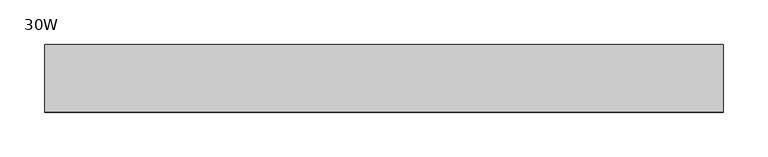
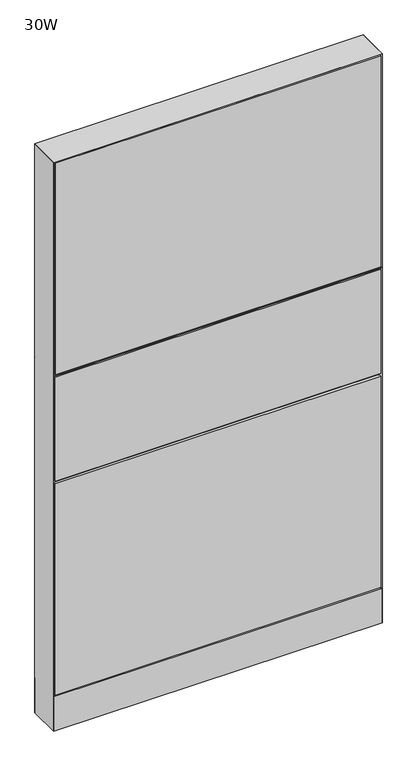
"""IFC4 building model written with IfcOpenShell, lengths in millimetres: furniture geometry, Steelcase - Montage - Frame - 55H - Enhanced Standard - Base Cavity : 30W."""

from ifc_helpers import new_model, si_unit, point, frame, frame_2d, origin, origin_with_axes, place, context, project, spatial, polyline, circle_curve, trimmed, segment, composite_curve, outline, extrude, faceted_brep, source, transform, mapped, element, save


def furniture_30w_ddc59d52(model_context):
    return source(origin(), model_context, "Body", "SolidModel", [
        extrude(outline(polyline([(3.175, 31.7500194), (3.175, 38.1000194), (758.825, 38.1000194), (758.825, 31.7500194), (3.175, 31.7500194)])), frame((0.0, 0.0, 877.8875), z_axis=(0.0, 0.0, 1.0), x_axis=(1.0, 0.0, 0.0)), (0.0, 0.0, 1.0), 517.525),
        faceted_brep([(755.6500047, 31.7526299, 881.0624997), (755.6500047, 31.7526299, 868.3625003), (762.0, 38.1026253, 874.7124956), (-5.4e-06, 38.102627, 874.7125027), (6.3499917, 31.7526299, 881.0624997), (6.3499917, 31.7526299, 868.3625003)], [[[0, 1, 2]], [[3, 4, 0, 2]], [[2, 1, 5, 3]], [[4, 5, 1, 0]], [[3, 5, 4]]]),
        extrude(outline(polyline([(3.175, 31.7500194), (3.175, 38.1000194), (758.825, 38.1000194), (758.825, 31.7500194), (3.175, 31.7500194)])), frame((0.0, 0.0, 615.95), z_axis=(0.0, 0.0, 1.0), x_axis=(1.0, 0.0, 0.0)), (0.0, 0.0, 1.0), 255.5875),
        extrude(outline(polyline([(3.175, 31.7500194), (3.175, 38.1000194), (758.825, 38.1000194), (758.825, 31.7500194), (3.175, 31.7500194)])), frame((0.0, 0.0, 92.075), z_axis=(0.0, 0.0, 1.0), x_axis=(1.0, 0.0, 0.0)), (0.0, 0.0, 1.0), 517.525),
        extrude(outline(polyline([(3.175, -31.7500194), (758.825, -31.7500194), (758.825, -38.1000194), (3.175, -38.1000194), (3.175, -31.7500194)])), frame((0.0, 0.0, 877.8875), z_axis=(0.0, 0.0, 1.0), x_axis=(1.0, 0.0, 0.0)), (0.0, 0.0, 1.0), 517.525),
        faceted_brep([(755.6500047, -31.7526299, 881.0624997), (762.0, -38.1026253, 874.7125044), (755.6500047, -31.7526299, 868.3625003), (0.0, -38.1026297, 874.7125), (6.3499917, -31.7526299, 881.0624997), (6.3499917, -31.7526299, 868.3625003)], [[[0, 1, 2]], [[3, 1, 0, 4]], [[1, 3, 5, 2]], [[4, 0, 2, 5]], [[3, 4, 5]]]),
        extrude(outline(polyline([(3.175, -31.7500194), (758.825, -31.7500194), (758.825, -38.1000194), (3.175, -38.1000194), (3.175, -31.7500194)])), frame((0.0, 0.0, 615.95), z_axis=(0.0, 0.0, 1.0), x_axis=(1.0, 0.0, 0.0)), (0.0, 0.0, 1.0), 255.5875),
        extrude(outline(polyline([(3.175, -31.7500194), (758.825, -31.7500194), (758.825, -38.1000194), (3.175, -38.1000194), (3.175, -31.7500194)])), frame((0.0, 0.0, 92.075), z_axis=(0.0, 0.0, 1.0), x_axis=(1.0, 0.0, 0.0)), (0.0, 0.0, 1.0), 517.525),
        extrude(outline(polyline([(6.350003, -31.7499985), (755.649997, -31.7499985), (762.0, -38.1000015), (0.0, -38.1000015), (6.350003, -31.7499985)])), frame((0.0, 0.0, 4.064), z_axis=(0.0, 0.0, 1.0), x_axis=(1.0, 0.0, 0.0)), (0.0, 0.0, 1.0), 84.835997),
        extrude(outline(polyline([(6.3500002, 31.7500017), (0.0, 38.1000015), (762.0, 38.1000015), (755.6500002, 31.7500017), (6.3500002, 31.7500017)])), frame((0.0, 0.0, 4.064), z_axis=(0.0, 0.0, 1.0), x_axis=(1.0, 0.0, 0.0)), (0.0, 0.0, 1.0), 84.835997),
        faceted_brep([(762.0, -38.1000015, 1398.5875), (0.0, -38.1000015, 1398.5875), (6.3500484, -31.749953, 1392.2374516), (755.6499516, -31.749953, 1392.2374516), (6.3500484, 31.749953, 1392.2374516), (755.6499516, 31.749953, 1392.2374516), (0.0, 38.1000015, 1398.5875), (762.0, 38.1000015, 1398.5875)], [[[0, 1, 2, 3]], [[3, 2, 4, 5]], [[6, 7, 5, 4]], [[1, 0, 7, 6]], [[2, 1, 6, 4]], [[0, 3, 5, 7]]]),
        extrude(outline(composite_curve([segment(trimmed(circle_curve(frame_2d((44.45, 0.0)), 15.24), [point((29.21, 0.0))], [point((59.69, 0.0))], False, "CARTESIAN"), True, "CONTINUOUS"), segment(trimmed(circle_curve(frame_2d((44.45, 0.0)), 15.24), [point((59.69, 0.0))], [point((29.21, 0.0))], False, "CARTESIAN"), True, "CONTINUOUS")], self_intersect=False)), origin_with_axes(), (0.0, 0.0, 1.0), 4.064),
        extrude(outline(composite_curve([segment(trimmed(circle_curve(frame_2d((717.55, 0.0)), 15.24), [point((702.31, 0.0))], [point((732.79, 0.0))], False, "CARTESIAN"), True, "CONTINUOUS"), segment(trimmed(circle_curve(frame_2d((717.55, 0.0)), 15.24), [point((732.79, 0.0))], [point((702.31, 0.0))], False, "CARTESIAN"), True, "CONTINUOUS")], self_intersect=False)), origin_with_axes(), (0.0, 0.0, 1.0), 4.064),
        faceted_brep([(762.0, -38.1000106, 4.064), (762.0, 38.1000015, 4.064), (762.0, 38.1000015, 1398.5875), (762.0, -38.1000106, 1398.5874637), (0.0, 38.1000015, 4.064), (0.0, -38.1000015, 4.064), (0.0, -38.1000015, 1398.5875), (0.0, 38.1000015, 1398.5875), (755.6499879, 31.7500017, 606.425), (6.35, 31.7500017, 606.425), (6.3499998, 31.7500017, 619.125), (755.6499879, 31.7500017, 619.125), (6.35, -31.7499985, 619.125), (755.6499879, -31.7499985, 619.125), (6.350003, -31.7499985, 606.425), (755.6499879, -31.7499985, 606.425), (6.35, 31.7500015, 4.064), (6.35, -31.7500015, 4.064), (755.6499879, 31.7499894, 4.064), (755.6499879, -31.7499985, 4.064), (6.35, 31.7500015, 1392.2375), (6.35, -31.7500015, 1392.2375), (755.6499879, -31.7499985, 1392.2374516), (755.6499879, 31.7499895, 1392.2374516)], [[[0, 1, 2, 3]], [[4, 5, 6, 7]], [[8, 9, 10, 11]], [[11, 10, 12, 13]], [[13, 12, 14, 15]], [[9, 8, 15, 14]], [[16, 17, 5, 4]], [[18, 1, 0, 19]], [[16, 4, 7, 20, 10, 9]], [[5, 17, 14, 12, 21, 6]], [[12, 10, 20, 21]], [[17, 16, 9, 14]], [[11, 13, 22, 23]], [[18, 19, 15, 8]], [[19, 0, 3, 22, 13, 15]], [[1, 18, 8, 11, 23, 2]], [[7, 6, 21, 20]], [[3, 2, 23, 22]]]),
    ])


if __name__ == "__main__":
    model = new_model("IFC4")
    model_context = context("Model", 3, world=origin())
    ifc_project = project(units=[si_unit("LENGTHUNIT", "METRE", prefix="MILLI")], contexts=[model_context])
    site = spatial("IfcSite", under=ifc_project)
    building = spatial("IfcBuilding", under=site)
    placement = place(None, origin())
    furniture_30w_shape = furniture_30w_ddc59d52(model_context)
    element("IfcFurniture", 1, ObjectType="Steelcase - Montage - Frame - 55H - Enhanced Standard - Base Cavity : 30W", at=placement, inside=building, context=model_context, shape_type="MappedRepresentation", body=[
        mapped(furniture_30w_shape, transform((0.0, 0.0, 0.0), x_axis=(1.0, 0.0, 0.0), y_axis=(0.0, 1.0, 0.0), z_axis=(0.0, 0.0, 1.0))),
    ])
    save(model, "model.ifc")
